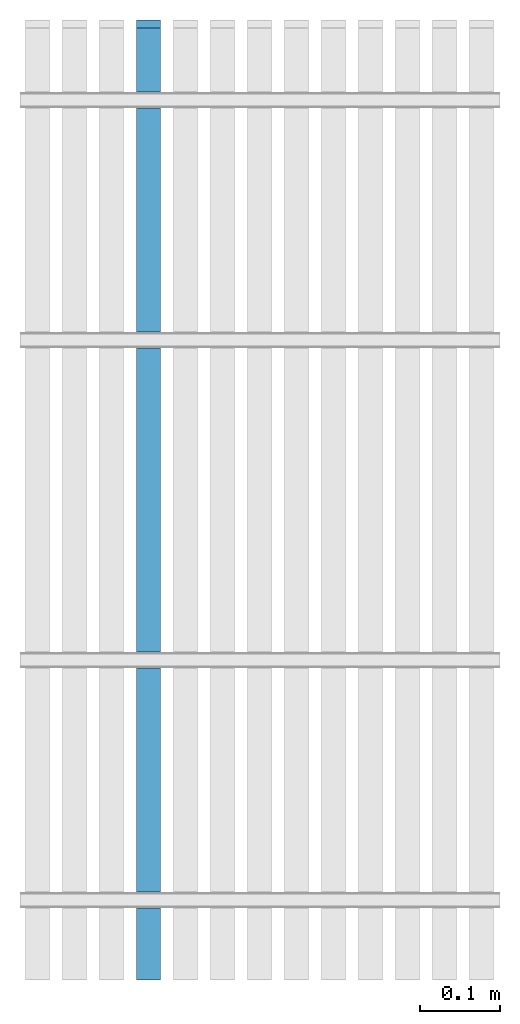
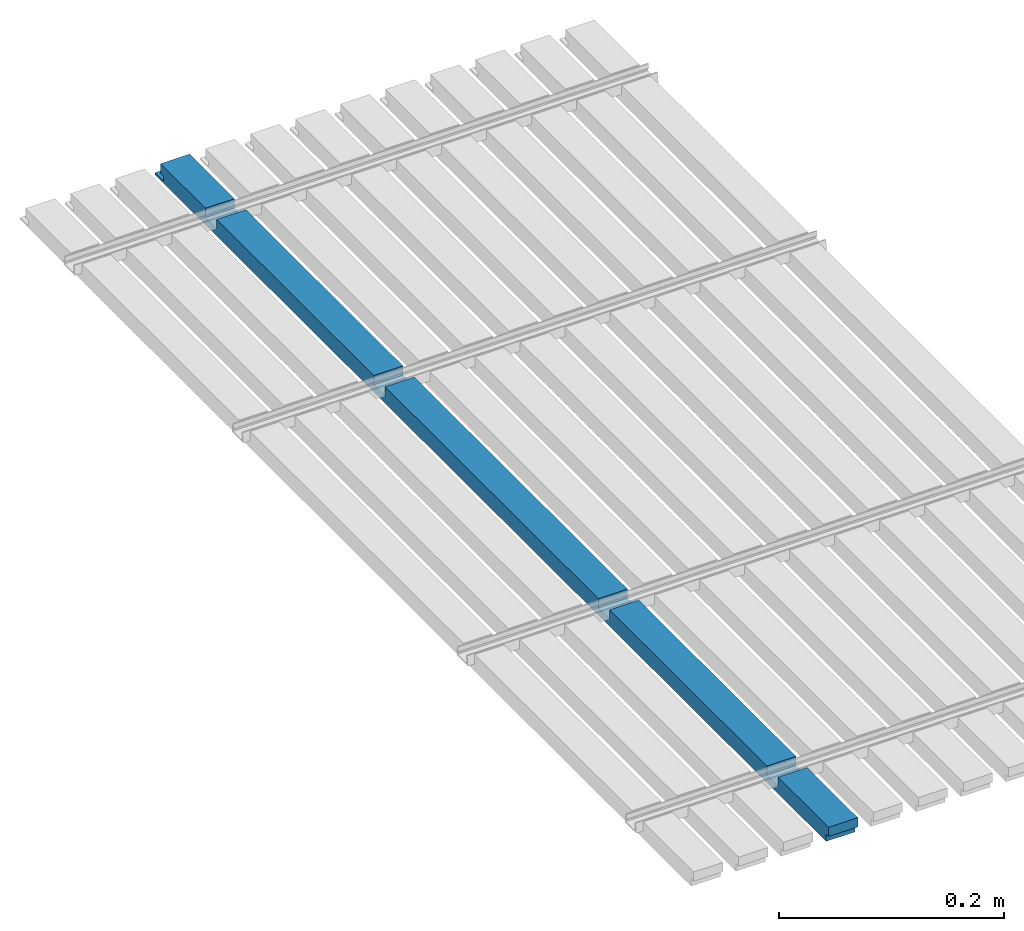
# One storey, part 3 of 3: 1 wall.
"""IFC2X3 building model written with IfcOpenShell, lengths in millimetres."""

from ifc_helpers import new_model, entity, si_unit, converted_unit, money_unit, direction, frame, origin_with_axes, place, context, subcontext, project, spatial, polyline, outline, extrude, boolean, faceted_brep, material, layer, layer_set, layer_usage, type_object, element, save


model = new_model("IFC2X3")

# Units and contexts
model_context = context("Model", 3, precision=1e-05, world=origin_with_axes(), true_north=direction((0.0, 1.0)))
body_context = subcontext(model_context, "Body", "Model", "MODEL_VIEW")
ifc_project = project(units=[si_unit("LENGTHUNIT", "METRE", prefix="MILLI"), si_unit("AREAUNIT", "SQUARE_METRE"), si_unit("VOLUMEUNIT", "CUBIC_METRE"), converted_unit("PLANEANGLEUNIT", "DEGREE", entity("IfcPlaneAngleMeasure", 0.0174532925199), si_unit("PLANEANGLEUNIT", "RADIAN"), dimensions=[0, 0, 0, 0, 0, 0, 0]), si_unit("SOLIDANGLEUNIT", "STERADIAN"), money_unit("AUD"), si_unit("TIMEUNIT", "SECOND"), si_unit("MASSUNIT", "GRAM"), si_unit("THERMODYNAMICTEMPERATUREUNIT", "DEGREE_CELSIUS"), si_unit("LUMINOUSINTENSITYUNIT", "LUMEN")], contexts=[model_context])

# Site, building, storey
site_placement = place(None, origin_with_axes())
site = spatial("IfcSite", under=ifc_project, at=site_placement, Name="Site", CompositionType="ELEMENT")
building_placement = place(site_placement, origin_with_axes())
building = spatial("IfcBuilding", under=site, at=building_placement, Name="Building", CompositionType="ELEMENT")
storey_placement = place(building_placement, origin_with_axes())
storey = spatial("IfcBuildingStorey", under=building, at=storey_placement, Name="GROUND", CompositionType="ELEMENT", Elevation=0.0)

# Wall
ifc_material = material(Name="Timber")
ifc_layer = layer(ifc_material, 30.0, ventilated="UNKNOWN")
ifc_layer_set = layer_set([ifc_layer], Name="Timber 30")
ifc_layer_usage = layer_usage(ifc_layer_set, "AXIS2", "POSITIVE", 0.0)
wall_type = type_object("IfcWallType", Name="Timber 30", PredefinedType="NOTDEFINED")
wall_placement = place(storey_placement, frame((176.25, 0.0, 0.0), z_axis=(0.0, 0.0, 1.0), x_axis=(0.0, 1.0, 0.0)))
element("IfcWallStandardCase", 1, at=wall_placement, inside=storey, type_object=wall_type, material=ifc_layer_usage, Name="WALL-01", context=body_context, shape_type="CSG", body=[
    boolean("DIFFERENCE", boolean("DIFFERENCE", boolean("DIFFERENCE", boolean("DIFFERENCE", boolean("DIFFERENCE", boolean("DIFFERENCE", extrude(outline(polyline([(0.0, 0.0), (1200.0, 0.0), (1200.0, 30.0), (0.0, 30.0), (0.0, 0.0)])), origin_with_axes(), (0.0, 0.0, 1.0), 18.0), faceted_brep([(4.5, 0.0, 8.0), (0.0, 0.0, 8.0), (0.0, 0.0, 0.0), (4.5, 0.0, 0.0), (4.5, 30.0, 8.0), (0.0, 30.0, 8.0), (0.0, 30.0, 0.0), (4.5, 30.0, 0.0)], [[[0, 1, 2, 3]], [[1, 0, 4, 5]], [[1, 5, 6, 2]], [[7, 3, 2, 6]], [[0, 3, 7, 4]], [[4, 7, 6, 5]]])), faceted_brep([(90.0, 0.0, 8.0), (110.0, 0.0, 8.0), (110.0, 0.0, 18.0), (90.0, 0.0, 18.0), (90.0, 30.0, 8.0), (110.0, 30.0, 8.0), (110.0, 30.0, 18.0), (90.0, 30.0, 18.0)], [[[0, 1, 2, 3]], [[1, 0, 4, 5]], [[6, 2, 1, 5]], [[7, 3, 2, 6]], [[0, 3, 7, 4]], [[4, 7, 6, 5]]])), faceted_brep([(390.0, 0.0, 8.0), (410.0, 0.0, 8.0), (410.0, 0.0, 18.0), (390.0, 0.0, 18.0), (390.0, 30.0, 8.0), (410.0, 30.0, 8.0), (410.0, 30.0, 18.0), (390.0, 30.0, 18.0)], [[[0, 1, 2, 3]], [[1, 0, 4, 5]], [[6, 2, 1, 5]], [[7, 3, 2, 6]], [[0, 3, 7, 4]], [[4, 7, 6, 5]]])), faceted_brep([(790.0, 0.0, 8.0), (810.0, 0.0, 8.0), (810.0, 0.0, 18.0), (790.0, 0.0, 18.0), (790.0, 30.0, 8.0), (810.0, 30.0, 8.0), (810.0, 30.0, 18.0), (790.0, 30.0, 18.0)], [[[0, 1, 2, 3]], [[1, 0, 4, 5]], [[6, 2, 1, 5]], [[7, 3, 2, 6]], [[0, 3, 7, 4]], [[4, 7, 6, 5]]])), faceted_brep([(1090.0, 0.0, 8.0), (1110.0, 0.0, 8.0), (1110.0, 0.0, 18.0), (1090.0, 0.0, 18.0), (1090.0, 30.0, 8.0), (1110.0, 30.0, 8.0), (1110.0, 30.0, 18.0), (1090.0, 30.0, 18.0)], [[[0, 1, 2, 3]], [[1, 0, 4, 5]], [[6, 2, 1, 5]], [[7, 3, 2, 6]], [[0, 3, 7, 4]], [[4, 7, 6, 5]]])), faceted_brep([(1185.0, 0.0, 7.5), (1185.0, 0.0, 2.0), (1200.0, 0.0, 2.0), (1200.0, 0.0, 18.0), (1190.0, 0.0, 18.0), (1190.0, 0.0, 7.5), (1185.0, 30.0, 7.5), (1185.0, 30.0, 2.0), (1200.0, 30.0, 2.0), (1200.0, 30.0, 18.0), (1190.0, 30.0, 18.0), (1190.0, 30.0, 7.5)], [[[0, 1, 2, 3, 4, 5]], [[1, 0, 6, 7]], [[8, 2, 1, 7]], [[2, 8, 9, 3]], [[10, 4, 3, 9]], [[5, 4, 10, 11]], [[0, 5, 11, 6]], [[11, 10, 9, 8, 7, 6]]])),
])

save(model, "model.ifc")
